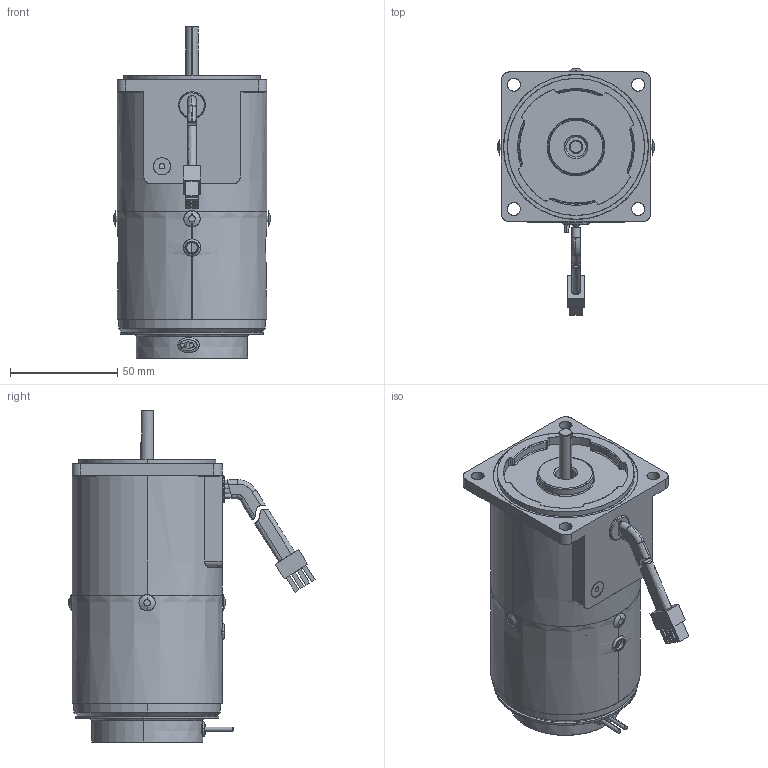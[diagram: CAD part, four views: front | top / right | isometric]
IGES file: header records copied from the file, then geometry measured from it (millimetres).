
Start section: SolidWorks IGES file using analytic representation for surfaces
Bounding box: 73 x 114.9 x 155 mm (x, y, z)
Surface area: 100486.7 mm2 (no closed solid volume)
Topology: 0 solids, 0 shells, 365 faces, 7074 edges, 7074 vertices
Faces by surface type: bspline 205, revolution 160
